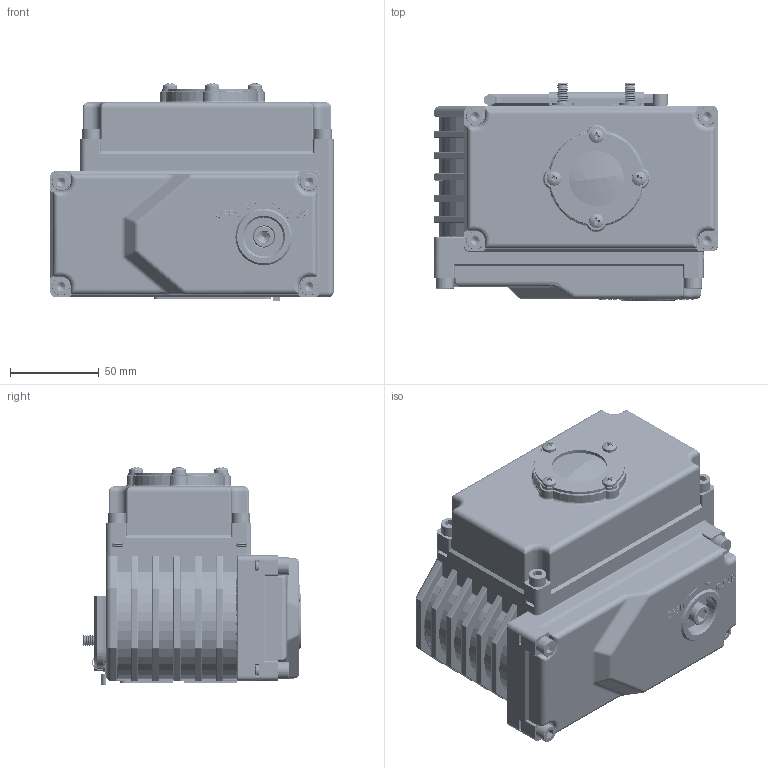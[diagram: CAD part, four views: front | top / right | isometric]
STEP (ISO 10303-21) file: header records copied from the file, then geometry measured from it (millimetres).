
FILE_DESCRIPTION(('Open CASCADE Model'),'2;1');
FILE_NAME('Open CASCADE Shape Model','2023-01-25T14:33:18',('Author'),( 'Open CASCADE'),'Open CASCADE STEP processor 7.3','Open CASCADE 7.3' ,'Unknown');
FILE_SCHEMA(('AUTOMOTIVE_DESIGN { 1 0 10303 214 1 1 1 1 }'));
Length unit declared in the file: millimetre
Products named in the file (6111): Open CASCADE STEP translator 7.3 1; Open CASCADE STEP translator 7.3 1.1; Open CASCADE STEP translator 7.3 1.2; Open CASCADE STEP translator 7.3 1.3; Open CASCADE STEP translator 7.3 1.4; Open CASCADE STEP translator 7.3 1.5; Open CASCADE STEP translator 7.3 1.6; Open CASCADE STEP translator 7.3 1.7; Open CASCADE STEP translator 7.3 1.8; Open CASCADE STEP translator 7.3 1.9; Open CASCADE STEP translator 7.3 1.10; Open CASCADE STEP translator 7.3 1.11; Open CASCADE STEP translator 7.3 1.12; Open CASCADE STEP translator 7.3 1.13; Open CASCADE STEP translator 7.3 1.14; Open CASCADE STEP translator 7.3 1.15; Open CASCADE STEP translator 7.3 1.16; Open CASCADE STEP translator 7.3 1.17; Open CASCADE STEP translator 7.3 1.18; Open CASCADE STEP translator 7.3 1.19; Open CASCADE STEP translator 7.3 1.20; Open CASCADE STEP translator 7.3 1.21; Open CASCADE STEP translator 7.3 1.22; Open CASCADE STEP translator 7.3 1.23; Open CASCADE STEP translator 7.3 1.24; Open CASCADE STEP translator 7.3 1.25; Open CASCADE STEP translator 7.3 1.26; Open CASCADE STEP translator 7.3 1.27; Open CASCADE STEP translator 7.3 1.28; Open CASCADE STEP translator 7.3 1.29; Open CASCADE STEP translator 7.3 1.30; Open CASCADE STEP translator 7.3 1.31; Open CASCADE STEP translator 7.3 1.32; Open CASCADE STEP translator 7.3 1.33; Open CASCADE STEP translator 7.3 1.34; Open CASCADE STEP translator 7.3 1.35; Open CASCADE STEP translator 7.3 1.36; Open CASCADE STEP translator 7.3 1.37; Open CASCADE STEP translator 7.3 1.38; Open CASCADE STEP translator 7.3 1.39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
Assembly tree (6110 placements, depth 2):
  Open CASCADE STEP translator 7.3 1
    Open CASCADE STEP translator 7.3 1.1
    Open CASCADE STEP translator 7.3 1.2
    Open CASCADE STEP translator 7.3 1.3
    Open CASCADE STEP translator 7.3 1.4
    Open CASCADE STEP translator 7.3 1.5
    Open CASCADE STEP translator 7.3 1.6
    Open CASCADE STEP translator 7.3 1.7
    Open CASCADE STEP translator 7.3 1.8
    Open CASCADE STEP translator 7.3 1.9
    Open CASCADE STEP translator 7.3 1.10
    Open CASCADE STEP translator 7.3 1.11
    Open CASCADE STEP translator 7.3 1.12
    Open CASCADE STEP translator 7.3 1.13
    Open CASCADE STEP translator 7.3 1.14
    Open CASCADE STEP translator 7.3 1.15
    Open CASCADE STEP translator 7.3 1.16
    Open CASCADE STEP translator 7.3 1.17
    Open CASCADE STEP translator 7.3 1.18
    Open CASCADE STEP translator 7.3 1.19
    Open CASCADE STEP translator 7.3 1.20
    Open CASCADE STEP translator 7.3 1.21
    Open CASCADE STEP translator 7.3 1.22
    Open CASCADE STEP translator 7.3 1.23
    Open CASCADE STEP translator 7.3 1.24
    Open CASCADE STEP translator 7.3 1.25
    Open CASCADE STEP translator 7.3 1.26
    Open CASCADE STEP translator 7.3 1.27
    Open CASCADE STEP translator 7.3 1.28
    Open CASCADE STEP translator 7.3 1.29
    Open CASCADE STEP translator 7.3 1.30
    Open CASCADE STEP translator 7.3 1.31
    Open CASCADE STEP translator 7.3 1.32
    Open CASCADE STEP translator 7.3 1.33
    Open CASCADE STEP translator 7.3 1.34
    Open CASCADE STEP translator 7.3 1.35
    Open CASCADE STEP translator 7.3 1.36
    Open CASCADE STEP translator 7.3 1.37
    Open CASCADE STEP translator 7.3 1.38
    Open CASCADE STEP translator 7.3 1.39
    Open CASCADE STEP translator 7.3 1.40
    Open CASCADE STEP translator 7.3 1.41
    Open CASCADE STEP translator 7.3 1.42
    Open CASCADE STEP translator 7.3 1.43
    Open CASCADE STEP translator 7.3 1.44
    Open CASCADE STEP translator 7.3 1.45
    Open CASCADE STEP translator 7.3 1.46
    Open CASCADE STEP translator 7.3 1.47
    Open CASCADE STEP translator 7.3 1.48
    Open CASCADE STEP translator 7.3 1.49
    Open CASCADE STEP translator 7.3 1.50
    Open CASCADE STEP translator 7.3 1.51
    Open CASCADE STEP translator 7.3 1.52
    Open CASCADE STEP translator 7.3 1.53
    Open CASCADE STEP translator 7.3 1.54
    Open CASCADE STEP translator 7.3 1.55
    Open CASCADE STEP translator 7.3 1.56
    Open CASCADE STEP translator 7.3 1.57
    Open CASCADE STEP translator 7.3 1.58
    Open CASCADE STEP translator 7.3 1.59
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Bounding box: 160 x 123.1 x 122.72 mm (x, y, z)
Surface area: 298775.1 mm2 (no closed solid volume)
Topology: 0 solids, 6110 shells, 6110 faces, 32218 edges, 32048 vertices
Faces by surface type: cylinder 2749, plane 1177, cone 1031, bspline 548, torus 353, sphere 238, revolution 14
Entity records: 946411 total; most frequent: CARTESIAN_POINT 440139, DIRECTION 78097, LINE 32824, VECTOR 32824, ORIENTED_EDGE 32050, EDGE_CURVE 32050, SURFACE_CURVE 32050, PCURVE 32050
